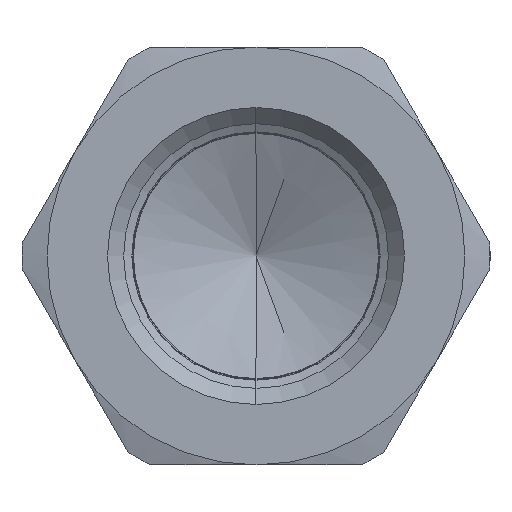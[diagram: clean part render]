
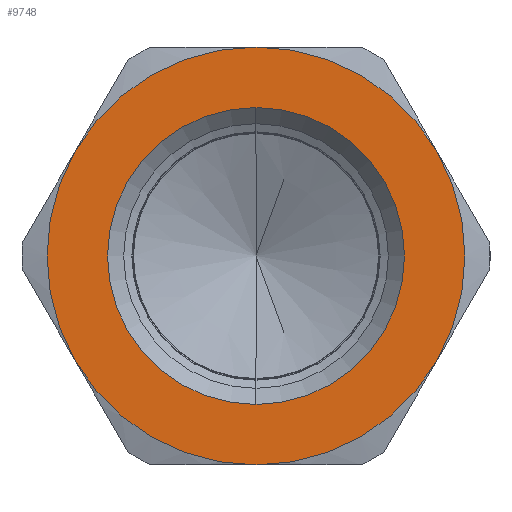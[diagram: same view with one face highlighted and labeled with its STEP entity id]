
A CAD part, left-side view. The second image highlights one B-rep face of the part: STEP entity #9748.
In plain terms, the highlighted planar face has unit normal (-1, 0, 0).
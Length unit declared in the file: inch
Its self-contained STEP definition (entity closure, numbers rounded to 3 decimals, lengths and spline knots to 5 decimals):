
#372 = VERTEX_POINT ( 'NONE', #9849 ) ;
#445 = VERTEX_POINT ( 'NONE', #1976 ) ;
#544 = VERTEX_POINT ( 'NONE', #9870 ) ;
#601 = VERTEX_POINT ( 'NONE', #9875 ) ;
#1574 = VERTEX_POINT ( 'NONE', #9935 ) ;
#1584 = VERTEX_POINT ( 'NONE', #9939 ) ;
#1594 = VERTEX_POINT ( 'NONE', #9936 ) ;
#1976 = CARTESIAN_POINT ( 'NONE',  ( 0., 0., 0.375 ) ) ;
#2415 = VERTEX_POINT ( 'NONE', #10059 ) ;
#2594 = EDGE_LOOP ( 'NONE', ( #14428, #14429, #14430, #14431, #14432, #14434 ) ) ;
#2722 = EDGE_LOOP ( 'NONE', ( #14435, #14436 ) ) ;
#6911 = CIRCLE ( 'NONE', #6986, 0.375 ) ;
#6979 = CIRCLE ( 'NONE', #6982, 0.26649 ) ;
#6981 = CIRCLE ( 'NONE', #6984, 0.375 ) ;
#6982 = AXIS2_PLACEMENT_3D ( 'NONE', #7416, #7417, #7418 ) ;
#6984 = AXIS2_PLACEMENT_3D ( 'NONE', #7419, #7420, #7421 ) ;
#6985 = CIRCLE ( 'NONE', #6988, 0.375 ) ;
#6986 = AXIS2_PLACEMENT_3D ( 'NONE', #7422, #7423, #7424 ) ;
#6987 = CIRCLE ( 'NONE', #6990, 0.375 ) ;
#6988 = AXIS2_PLACEMENT_3D ( 'NONE', #7425, #7426, #7427 ) ;
#6989 = CIRCLE ( 'NONE', #6992, 0.375 ) ;
#6990 = AXIS2_PLACEMENT_3D ( 'NONE', #7428, #7429, #7430 ) ;
#6991 = CIRCLE ( 'NONE', #6994, 0.375 ) ;
#6992 = AXIS2_PLACEMENT_3D ( 'NONE', #7433, #7434, #7435 ) ;
#6994 = AXIS2_PLACEMENT_3D ( 'NONE', #7438, #7439, #7440 ) ;
#7043 = AXIS2_PLACEMENT_3D ( 'NONE', #7676, #7683, #7684 ) ;
#7416 = CARTESIAN_POINT ( 'NONE',  ( 0., 0., 0. ) ) ;
#7417 = DIRECTION ( 'NONE',  ( -1., 0., 0. ) ) ;
#7418 = DIRECTION ( 'NONE',  ( 0., 0., 1. ) ) ;
#7419 = CARTESIAN_POINT ( 'NONE',  ( 0., 0., 0. ) ) ;
#7420 = DIRECTION ( 'NONE',  ( -1., 0., 0. ) ) ;
#7421 = DIRECTION ( 'NONE',  ( 0., 0., -1. ) ) ;
#7422 = CARTESIAN_POINT ( 'NONE',  ( 0., 0., 0. ) ) ;
#7423 = DIRECTION ( 'NONE',  ( -1., 0., 0. ) ) ;
#7424 = DIRECTION ( 'NONE',  ( 0., 0., -1. ) ) ;
#7425 = CARTESIAN_POINT ( 'NONE',  ( 0., 0., 0. ) ) ;
#7426 = DIRECTION ( 'NONE',  ( -1., 0., 0. ) ) ;
#7427 = DIRECTION ( 'NONE',  ( 0., 0., -1. ) ) ;
#7428 = CARTESIAN_POINT ( 'NONE',  ( 0., 0., 0. ) ) ;
#7429 = DIRECTION ( 'NONE',  ( -1., 0., 0. ) ) ;
#7430 = DIRECTION ( 'NONE',  ( 0., 0., -1. ) ) ;
#7433 = CARTESIAN_POINT ( 'NONE',  ( 0., 0., 0. ) ) ;
#7434 = DIRECTION ( 'NONE',  ( -1., 0., 0. ) ) ;
#7435 = DIRECTION ( 'NONE',  ( 0., 0., -1. ) ) ;
#7438 = CARTESIAN_POINT ( 'NONE',  ( 0., 0., 0. ) ) ;
#7439 = DIRECTION ( 'NONE',  ( -1., 0., 0. ) ) ;
#7440 = DIRECTION ( 'NONE',  ( 0., 0., -1. ) ) ;
#7676 = CARTESIAN_POINT ( 'NONE',  ( 0., 0.43301, 0. ) ) ;
#7679 = FACE_OUTER_BOUND ( 'NONE', #2594, .T. ) ;
#7680 = FACE_BOUND ( 'NONE', #2722, .T. ) ;
#7681 = PLANE ( 'NONE',  #7043 ) ;
#7683 = DIRECTION ( 'NONE',  ( 1., 0., 0. ) ) ;
#7684 = DIRECTION ( 'NONE',  ( 0., 0., -1. ) ) ;
#8960 = EDGE_CURVE ( 'NONE', #544, #2415, #15409, .T. ) ;
#9692 = EDGE_CURVE ( 'NONE', #2415, #544, #6979, .T. ) ;
#9693 = EDGE_CURVE ( 'NONE', #601, #1594, #6981, .T. ) ;
#9694 = EDGE_CURVE ( 'NONE', #1594, #372, #6911, .T. ) ;
#9695 = EDGE_CURVE ( 'NONE', #372, #445, #6985, .T. ) ;
#9696 = EDGE_CURVE ( 'NONE', #445, #1574, #6987, .T. ) ;
#9697 = EDGE_CURVE ( 'NONE', #1574, #1584, #6989, .T. ) ;
#9698 = EDGE_CURVE ( 'NONE', #1584, #601, #6991, .T. ) ;
#9748 = ADVANCED_FACE ( 'NONE', ( #7679, #7680 ), #7681, .F. ) ;
#9849 = CARTESIAN_POINT ( 'NONE',  ( 0., -0.32476, 0.1875 ) ) ;
#9870 = CARTESIAN_POINT ( 'NONE',  ( 0., 0., -0.26649 ) ) ;
#9875 = CARTESIAN_POINT ( 'NONE',  ( 0., 0., -0.375 ) ) ;
#9935 = CARTESIAN_POINT ( 'NONE',  ( 0., 0.32476, 0.1875 ) ) ;
#9936 = CARTESIAN_POINT ( 'NONE',  ( 0., -0.32476, -0.1875 ) ) ;
#9939 = CARTESIAN_POINT ( 'NONE',  ( 0., 0.32476, -0.1875 ) ) ;
#10059 = CARTESIAN_POINT ( 'NONE',  ( 0., 0., 0.26649 ) ) ;
#14428 = ORIENTED_EDGE ( 'NONE', *, *, #9693, .T. ) ;
#14429 = ORIENTED_EDGE ( 'NONE', *, *, #9694, .T. ) ;
#14430 = ORIENTED_EDGE ( 'NONE', *, *, #9695, .T. ) ;
#14431 = ORIENTED_EDGE ( 'NONE', *, *, #9696, .T. ) ;
#14432 = ORIENTED_EDGE ( 'NONE', *, *, #9697, .T. ) ;
#14434 = ORIENTED_EDGE ( 'NONE', *, *, #9698, .T. ) ;
#14435 = ORIENTED_EDGE ( 'NONE', *, *, #9692, .F. ) ;
#14436 = ORIENTED_EDGE ( 'NONE', *, *, #8960, .F. ) ;
#15409 = CIRCLE ( 'NONE', #15414, 0.26649 ) ;
#15414 = AXIS2_PLACEMENT_3D ( 'NONE', #15933, #15934, #15935 ) ;
#15933 = CARTESIAN_POINT ( 'NONE',  ( 0., 0., 0. ) ) ;
#15934 = DIRECTION ( 'NONE',  ( -1., 0., 0. ) ) ;
#15935 = DIRECTION ( 'NONE',  ( 0., 0., 1. ) ) ;
